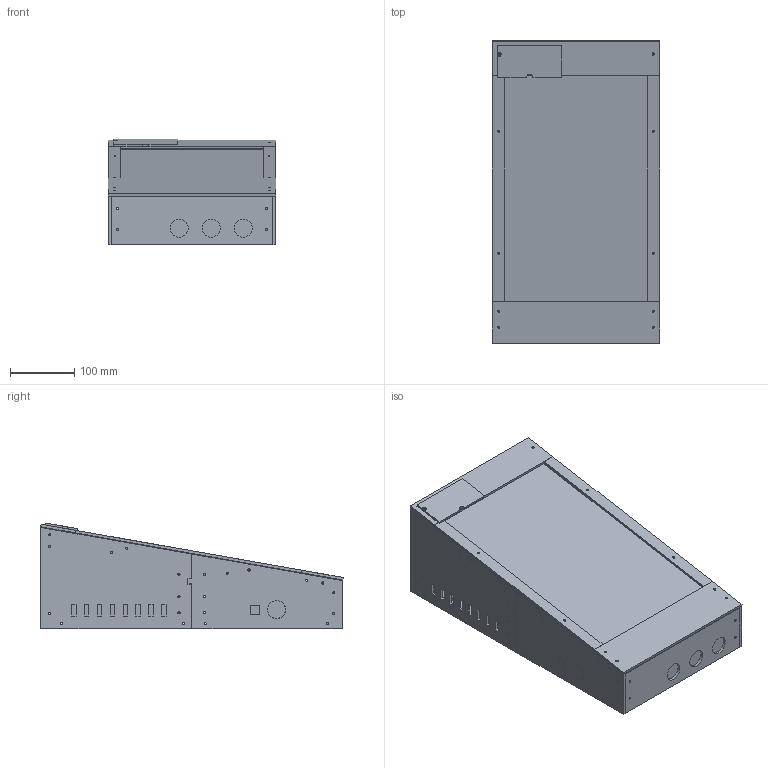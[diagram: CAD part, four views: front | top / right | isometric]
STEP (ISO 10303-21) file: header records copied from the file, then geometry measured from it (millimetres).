
FILE_DESCRIPTION(('Open CASCADE Model'),'2;1');
FILE_NAME('Open CASCADE Shape Model','2026-11-07T13:38:43',('Author'),( 'Open CASCADE'),'Open CASCADE STEP processor 7.8','Open CASCADE 7.8' ,'Unknown');
FILE_SCHEMA(('AUTOMOTIVE_DESIGN { 1 0 10303 214 1 1 1 1 }'));
Length unit declared in the file: millimetre
Products named in the file (65): Mini_VPin_Prototype_V1_8; left_front_wall; left_rear_wall; right_front_wall; right_rear_wall; front_button_panel; rear_vent_panel; corner_left_front_24; corner_left_front_56; corner_left_rear_24; corner_left_rear_128; corner_right_front_24; corner_right_front_56; corner_right_rear_24; corner_right_rear_128; splice_left; splice_right; floor_block_left_28; floor_block_left_218; floor_block_left_252; floor_block_left_442; floor_block_right_28; floor_block_right_218; floor_block_right_252; floor_block_right_442; bottom_front; bottom_rear; top_block_left_25; top_block_left_50; top_block_left_140; top_block_left_330; top_block_left_450; top_block_right_25; top_block_right_50; top_block_right_140; top_block_right_330; top_block_right_450; monitor_saddle_left_180; monitor_saddle_left_360; monitor_saddle_right_180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
Assembly tree (64 placements, depth 2):
  Mini_VPin_Prototype_V1_8
    left_front_wall
    left_rear_wall
    right_front_wall
    right_rear_wall
    front_button_panel
    rear_vent_panel
    corner_left_front_24
    corner_left_front_56
    corner_left_rear_24
    corner_left_rear_128
    corner_right_front_24
    corner_right_front_56
    corner_right_rear_24
    corner_right_rear_128
    splice_left
    splice_right
    floor_block_left_28
    floor_block_left_218
    floor_block_left_252
    floor_block_left_442
    floor_block_right_28
    floor_block_right_218
    floor_block_right_252
    floor_block_right_442
    bottom_front
    bottom_rear
    top_block_left_25
    top_block_left_50
    top_block_left_140
    top_block_left_330
    top_block_left_450
    top_block_right_25
    top_block_right_50
    top_block_right_140
    top_block_right_330
    top_block_right_450
    monitor_saddle_left_180
    monitor_saddle_left_360
    monitor_saddle_right_180
    monitor_saddle_right_360
    bezel_left_one_piece
    bezel_right_a1_a2
    front_cable_lid
    rear_control_deck
    control_hatch
    REFERENCE_monitor_12mm_envelope
    REFERENCE_PC_allowance_ports_face_front
    REFERENCE_0_front_button_110
    REFERENCE_1_front_button_160
    REFERENCE_2_front_button_210
    REFERENCE_3_left_flipper_barrel_D27.8
    REFERENCE_4_left_flipper_nut_D40_x5
    REFERENCE_5_left_flipper_body_and_wiring_40x40
    REFERENCE_6_left_assumed_MX_plate_stem_14.0
    REFERENCE_7_left_assumed_MX_body_clip_and_wiring_allowance
    REFERENCE_8_right_flipper_barrel_D27.8
    REFERENCE_9_right_flipper_nut_D40_x5
    REFERENCE_10_right_flipper_body_and_wiring_40x40
    REFERENCE_11_right_assumed_MX_plate_stem_14.0
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Bounding box: 260.2 x 470.69 x 164.59 mm (x, y, z)
Volume: 7297673.9 mm3; surface area: 1392710.4 mm2
Topology: 64 solids, 64 shells, 1067 faces, 2715 edges, 1810 vertices
Faces by surface type: plane 862, cylinder 187, extrusion 16, cone 2
Full cylindrical faces by diameter (mm): 3.4 x152, 4.5 x4, 6 x2, 6.4 x2, 27.8 x2, 28 x5, 40 x2
Entity records: 79295 total; most frequent: CARTESIAN_POINT 22351, DIRECTION 10049, VECTOR 6689, LINE 6673, ORIENTED_EDGE 5430, PCURVE 5430, DEFINITIONAL_REPRESENTATION 5430, EDGE_CURVE 2715
